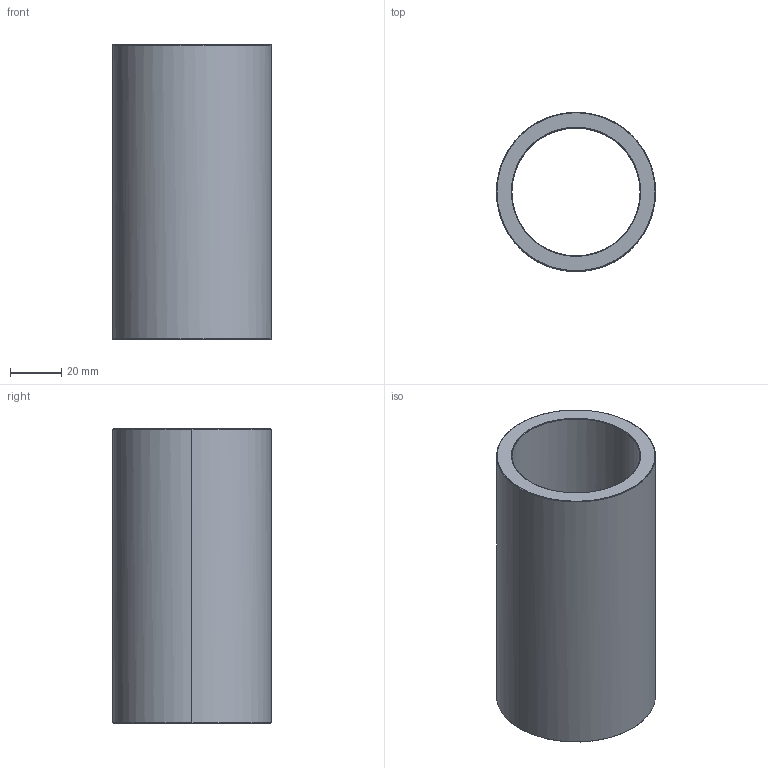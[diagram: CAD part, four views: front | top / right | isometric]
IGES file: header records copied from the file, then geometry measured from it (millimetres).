
Start section: Write IGES format                                    datakit 2008 (c)
Global section: file name: Unknown; native system: DATAKIT Converter; preprocessor: Unknown; author: Unknown; organization: Unknown; date: 950613.180003; units: millimetre
Bounding box: 62 x 61.95 x 115 mm (x, y, z)
Surface area: 42492.4 mm2 (no closed solid volume)
Topology: 0 solids, 0 shells, 14 faces, 56 edges, 56 vertices
Faces by surface type: revolution 12, bspline 2
